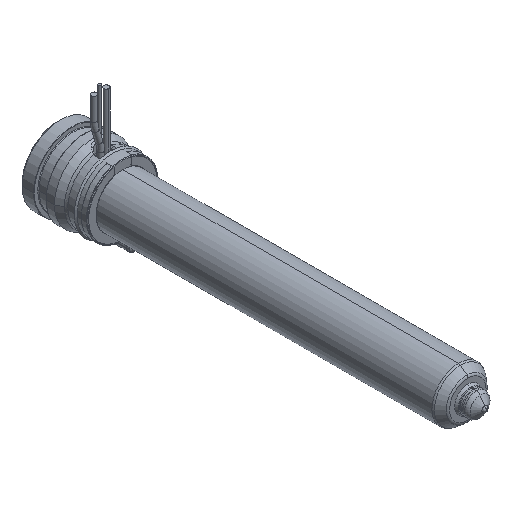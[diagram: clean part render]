
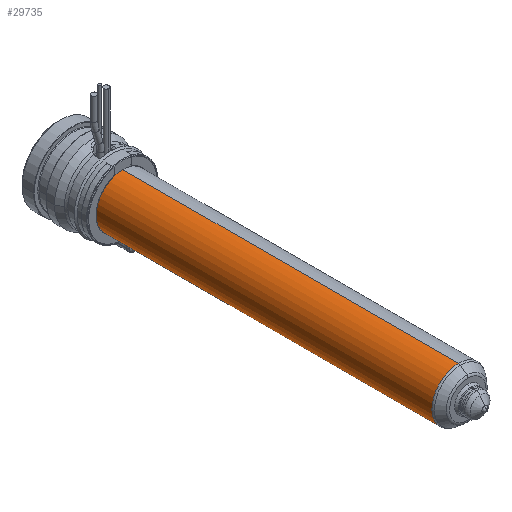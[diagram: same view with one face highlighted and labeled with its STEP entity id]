
A CAD part, isometric view. The second image highlights one B-rep face of the part: STEP entity #29735.
In plain terms, the highlighted cylindrical face has radius 9 mm (diameter 18 mm), a partial arc.
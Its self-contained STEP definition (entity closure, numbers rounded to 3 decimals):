
#29188=CARTESIAN_POINT('',(0.,-135.836,0.));
#29189=DIRECTION('',(0.,-1.,0.));
#29190=DIRECTION('',(0.,0.,1.));
#29191=AXIS2_PLACEMENT_3D('',#29188,#29189,#29190);
#29196=CARTESIAN_POINT('',(0.,-22.,0.));
#29197=DIRECTION('',(0.,-1.,0.));
#29198=DIRECTION('',(0.,0.,1.));
#29199=AXIS2_PLACEMENT_3D('',#29196,#29197,#29198);
#29204=DIRECTION('',(0.,-1.,0.));
#29205=VECTOR('',#29204,113.836);
#29206=CARTESIAN_POINT('',(0.,-22.,9.));
#29207=LINE('',#29206,#29205);
#29219=DIRECTION('',(0.,-1.,0.));
#29220=VECTOR('',#29219,113.836);
#29221=CARTESIAN_POINT('',(0.,-22.,-9.));
#29222=LINE('',#29221,#29220);
#29416=CARTESIAN_POINT('',(0.,-22.,9.));
#29417=CARTESIAN_POINT('',(0.,-135.836,9.));
#29418=VERTEX_POINT('',#29416);
#29419=VERTEX_POINT('',#29417);
#29438=CARTESIAN_POINT('',(0.,-22.,-9.));
#29439=CARTESIAN_POINT('',(0.,-135.836,-9.));
#29440=VERTEX_POINT('',#29438);
#29441=VERTEX_POINT('',#29439);
#29721=CARTESIAN_POINT('',(0.,-11.625,0.));
#29722=DIRECTION('',(0.,-1.,0.));
#29723=DIRECTION('',(0.,0.,1.));
#29724=AXIS2_PLACEMENT_3D('',#29721,#29722,#29723);
#29725=CYLINDRICAL_SURFACE('',#29724,9.);
#29727=ORIENTED_EDGE('',*,*,#29726,.T.);
#29728=ORIENTED_EDGE('',*,*,#29716,.T.);
#29730=ORIENTED_EDGE('',*,*,#29729,.F.);
#29732=ORIENTED_EDGE('',*,*,#29731,.F.);
#29733=EDGE_LOOP('',(#29727,#29728,#29730,#29732));
#29734=FACE_OUTER_BOUND('',#29733,.F.);
#29735=ADVANCED_FACE('',(#29734),#29725,.T.);
#29192=CIRCLE('',#29191,9.);
#29200=CIRCLE('',#29199,9.);
#29716=EDGE_CURVE('',#29419,#29441,#29192,.T.);
#29726=EDGE_CURVE('',#29418,#29419,#29207,.T.);
#29729=EDGE_CURVE('',#29440,#29441,#29222,.T.);
#29731=EDGE_CURVE('',#29418,#29440,#29200,.T.);
